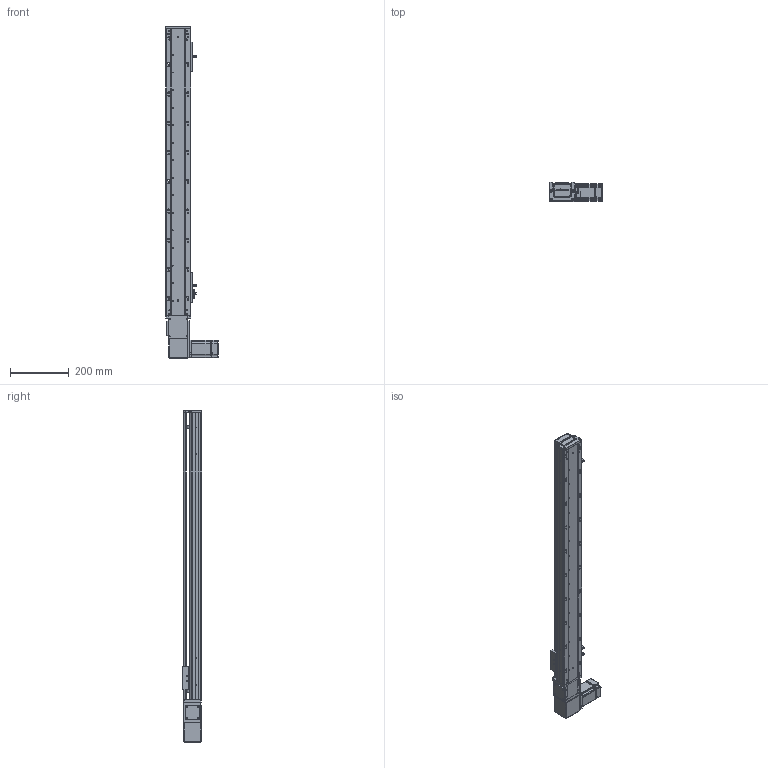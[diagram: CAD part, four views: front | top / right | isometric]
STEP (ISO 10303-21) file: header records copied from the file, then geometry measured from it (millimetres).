
FILE_DESCRIPTION (( 'STEP AP203' ), '1' );
FILE_NAME ('RY80-T-300-RK.SLDASM_800.step', '2021-03-01T02:07:02', ( '盈信电脑' ), ( '东莞市道滘镇水果街19号' ), 'SwSTEP 2.0', 'SolidWorks 2012', '' );
FILE_SCHEMA (( 'CONFIG_CONTROL_DESIGN' ));
Length unit declared in the file: millimetre
Products named in the file (20): RY80-T-300-RK.SLDASM_800; 滅袉蝶18-10; RY100-T粣創揤踡裔; RY80-T-M4蹟翐; RY80-T粣創揤踡輸; RY80-T肮祭謫俋欶; RY80-T翋肮祭謫裔啣; RY80-T萇儂假蚾啣; RY80-T肮祭湍揤輸1; RY80-T肮祭湍揤輸2; RY80-T-翋肮祭謫釱; 侂狟200W萇儂; RY80俋离覜茼え; 覜茼ん672; 1; RY80-T綴裔啣; RY80-T-300-RK倰第奻裔啣_800; 672嫖萇羲壽假蚾釱; RY80-T-300-RK倰第菁釱_800; RY80-T肮祭謫臏賑輸
Assembly tree (25 placements, depth 3):
  RY80-T-300-RK.SLDASM_800
    RY80-T-300-RK倰第菁釱_800
    RY80-T肮祭謫臏賑輸
    RY80-T-300-RK倰第奻裔啣_800
    RY80-T綴裔啣
    672嫖萇羲壽假蚾釱  x2
    覜茼ん672  x3
    RY80俋离覜茼え
    侂狟200W萇儂
      1
    RY80-T-翋肮祭謫釱
    RY80-T萇儂假蚾啣
    RY80-T肮祭湍揤輸1
    RY80-T肮祭湍揤輸2
    RY80-T粣創揤踡輸
    RY80-T-M4蹟翐  x2
    RY80-T翋肮祭謫裔啣  x2
    RY80-T肮祭謫俋欶
    滅袉蝶18-10  x2
    RY100-T粣創揤踡裔
Bounding box: 180 x 65 x 1135 mm (x, y, z)
Volume: 1928832 mm3; surface area: 800533.1 mm2
Topology: 24 solids, 24 shells, 2594 faces, 7175 edges, 4665 vertices
Faces by surface type: plane 1358, cylinder 1029, cone 151, bspline 56
Entity records: 82792 total; most frequent: CARTESIAN_POINT 20771, ORIENTED_EDGE 12794, DIRECTION 11904, EDGE_CURVE 6397, VERTEX_POINT 4206, AXIS2_PLACEMENT_3D 4035, LINE 3834, VECTOR 3834
